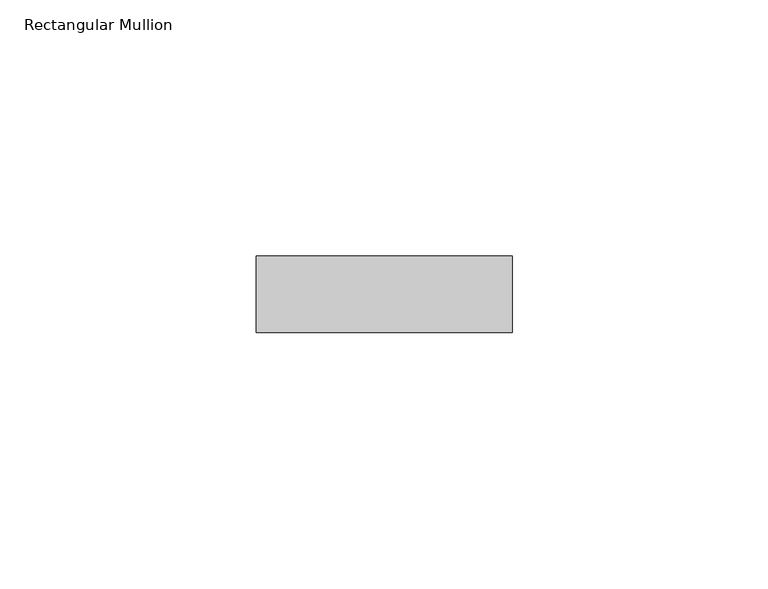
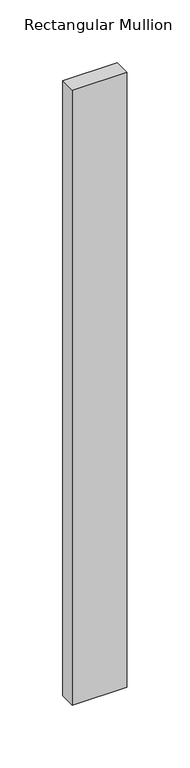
"""IFC4 building model written with IfcOpenShell, lengths in millimetres: member geometry, Rectangular Mullion : Ripa."""

from ifc_helpers import new_model, si_unit, frame, origin, place, context, project, spatial, polyline, outline, extrude, source, transform, mapped, element, save


def rectangular_mullion_4c4137b9(model_context):
    return source(origin(), model_context, "Body", "SweptSolid", [
        extrude(outline(polyline([(0.0, -75.0), (-50.0, -75.0), (-50.0, -60.0), (0.0, -60.0), (0.0, -75.0)])), frame((0.0, 0.0, -597.0547564), z_axis=(0.0, 0.0, 1.0), x_axis=(1.0, 0.0, 0.0)), (0.0, 0.0, 1.0), 597.0547564),
    ])


if __name__ == "__main__":
    model = new_model("IFC4")
    model_context = context("Model", 3, world=origin())
    ifc_project = project(units=[si_unit("LENGTHUNIT", "METRE", prefix="MILLI")], contexts=[model_context])
    site = spatial("IfcSite", under=ifc_project)
    building = spatial("IfcBuilding", under=site)
    placement = place(None, origin())
    rectangular_mullion_shape = rectangular_mullion_4c4137b9(model_context)
    element("IfcMember", 1, ObjectType="Rectangular Mullion : Ripa", at=placement, inside=building, context=model_context, shape_type="MappedRepresentation", body=[
        mapped(rectangular_mullion_shape, transform((0.0, 0.0, 0.0), x_axis=(1.0, 0.0, 0.0), y_axis=(0.0, 1.0, 0.0), z_axis=(0.0, 0.0, 1.0))),
    ])
    save(model, "model.ifc")
